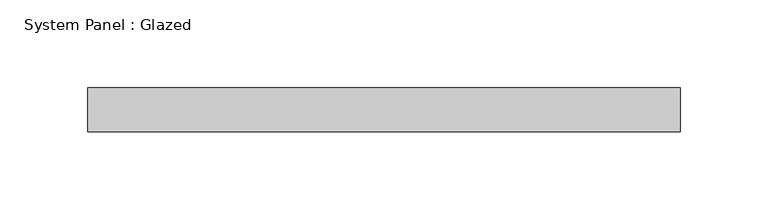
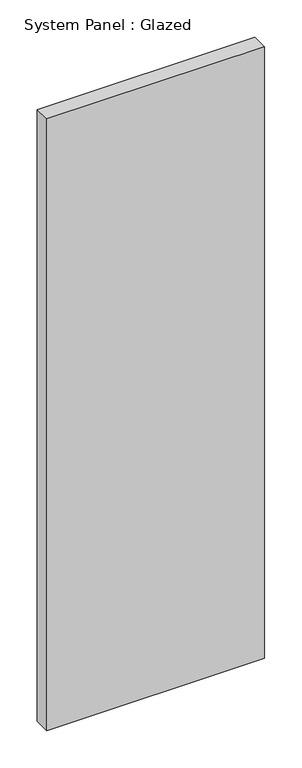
"""IFC4 building model written with IfcOpenShell, lengths in millimetres: plate geometry, System Panel : Glazed."""

from ifc_helpers import new_model, si_unit, origin, origin_with_axes, place, context, project, spatial, polyline, outline, extrude, source, transform, mapped, element, save


def system_panel_glazed_87374f63(model_context):
    return source(origin(), model_context, "Body", "SweptSolid", [
        extrude(outline(polyline([(168.5543266, 24.5), (-168.5543266, 24.5), (-168.5543266, 49.5), (168.5543266, 49.5), (168.5543266, 24.5)])), origin_with_axes(), (0.0, 0.0, 1.0), 1000.0),
    ])


if __name__ == "__main__":
    model = new_model("IFC4")
    model_context = context("Model", 3, world=origin())
    ifc_project = project(units=[si_unit("LENGTHUNIT", "METRE", prefix="MILLI")], contexts=[model_context])
    site = spatial("IfcSite", under=ifc_project)
    building = spatial("IfcBuilding", under=site)
    placement = place(None, origin())
    system_panel_glazed_shape = system_panel_glazed_87374f63(model_context)
    element("IfcPlate", 1, ObjectType="System Panel : Glazed", at=placement, inside=building, context=model_context, shape_type="MappedRepresentation", body=[
        mapped(system_panel_glazed_shape, transform((0.0, 0.0, 0.0), x_axis=(1.0, 0.0, 0.0), y_axis=(0.0, 1.0, 0.0), z_axis=(0.0, 0.0, 1.0))),
    ])
    save(model, "model.ifc")
